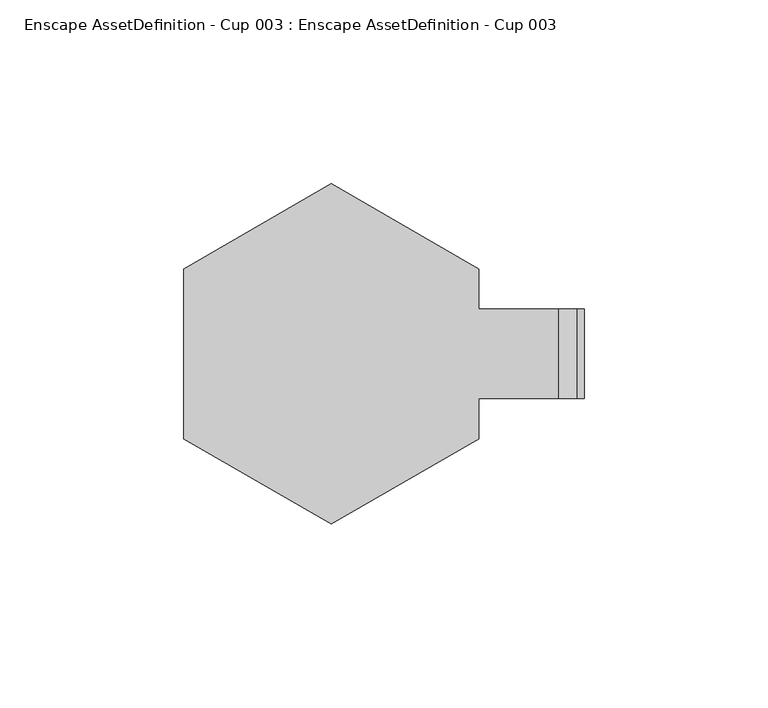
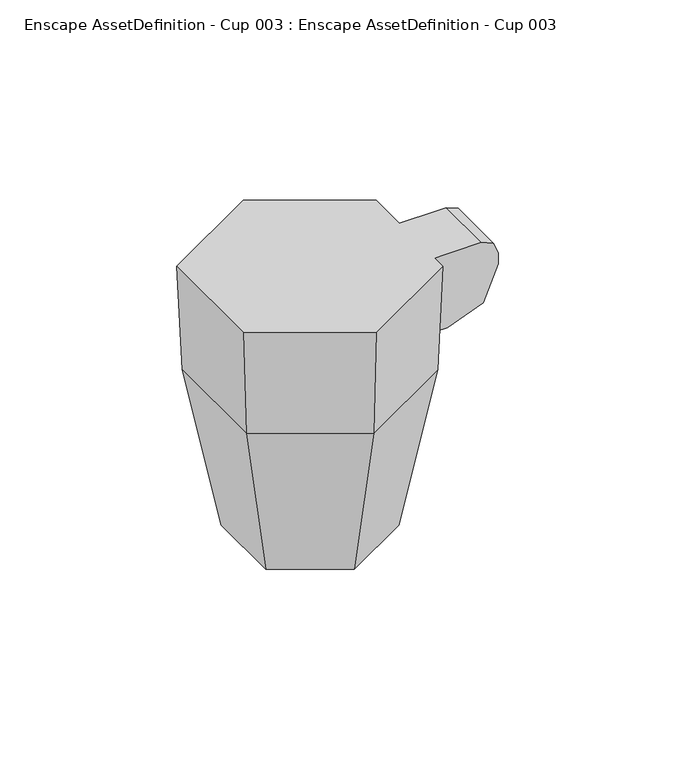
"""IFC4 building model written with IfcOpenShell, lengths in millimetres: geographic element geometry, Enscape AssetDefinition - Cup 003 : Enscape AssetDefinition - Cup 003."""

from ifc_helpers import new_model, si_unit, origin, place, context, project, spatial, triangles, source, transform, mapped, element, save


def enscape_assetdefinition_cup_003_enscape_assetdefinition_cup_932f1833(model_context):
    return source(origin(), model_context, "Body", "Tessellation", [
        triangles([(26.7339991, 15.4349999, 0.0), (38.4809996, -22.217001, 66.1040002), (26.7339991, -15.4349999, 0.0), (0.0, 30.8699998, 0.0), (0.0, -44.434002, 66.1040002), (40.1029982, -23.1529995, 110.0739952), (0.0, -30.8699998, 0.0), (-40.1029982, -23.1529995, 110.0739952), (0.0, -46.3070027, 110.0739952), (-40.1029982, 23.1529995, 110.0739952), (-38.4809996, -22.217001, 66.1040002), (38.4809996, 22.217001, 66.1040002), (0.0, 46.3070027, 110.0739952), (-26.7339991, -15.4349999, 0.0), (-38.4809996, 22.217001, 66.1040002), (0.0, 44.434002, 66.1040002), (40.1029982, 23.1529995, 110.0739952), (-26.7339991, 15.4349999, 0.0), (39.2920012, -12.1629999, 105.9359938), (39.2920012, 12.1629999, 105.9359938), (61.8809976, -12.1629999, 105.9359938), (39.2920012, 12.1629999, 74.5049999), (48.1470021, 12.1629999, 74.5049999), (39.2920012, -12.1629999, 74.5049999), (48.1470021, -12.1629999, 74.5049999), (62.6949968, 12.1629999, 79.9210029), (62.6949968, -12.1629999, 79.9210029), (68.7209961, 12.1629999, 94.4690066), (68.7209961, -12.1629999, 99.0950051), (68.7209961, -12.1629999, 94.4690066), (68.7209961, 12.1629999, 99.0950051), (66.7179979, 12.1629999, 103.9320009), (61.8809976, 12.1629999, 105.9359938), (66.7179979, -12.1629999, 103.9320009)], [[33, 21, 34], [33, 34, 32], [23, 33, 32], [23, 32, 31], [32, 29, 31], [32, 34, 29], [29, 34, 21], [21, 30, 29], [23, 31, 28], [29, 28, 31], [29, 30, 28], [28, 26, 23], [27, 28, 30], [27, 26, 28], [21, 27, 30], [25, 26, 27], [25, 23, 26], [21, 25, 27], [21, 24, 25], [24, 23, 25], [24, 22, 23], [20, 21, 33], [23, 20, 33], [23, 22, 20], [20, 19, 21], [21, 19, 24], [19, 22, 24], [19, 20, 22], [4, 16, 12], [18, 16, 4], [16, 17, 12], [16, 13, 17], [15, 13, 16], [18, 15, 16], [14, 15, 18], [7, 14, 18], [14, 11, 15], [7, 11, 14], [15, 10, 13], [11, 10, 15], [6, 13, 10], [6, 17, 13], [12, 17, 6], [11, 8, 10], [6, 10, 8], [8, 9, 6], [5, 8, 11], [5, 9, 8], [7, 5, 11], [18, 3, 7], [3, 5, 7], [2, 9, 5], [2, 6, 9], [12, 6, 2], [3, 2, 5], [18, 1, 3], [18, 4, 1], [4, 12, 1], [1, 2, 3], [1, 12, 2]]),
    ])


if __name__ == "__main__":
    model = new_model("IFC4")
    model_context = context("Model", 3, world=origin())
    ifc_project = project(units=[si_unit("LENGTHUNIT", "METRE", prefix="MILLI")], contexts=[model_context])
    site = spatial("IfcSite", under=ifc_project)
    building = spatial("IfcBuilding", under=site)
    placement = place(None, origin())
    enscape_assetdefinition_cup_003_enscape_assetdefinition_cup_shape = enscape_assetdefinition_cup_003_enscape_assetdefinition_cup_932f1833(model_context)
    element("IfcGeographicElement", 1, ObjectType="Enscape AssetDefinition - Cup 003 : Enscape AssetDefinition - Cup 003", at=placement, inside=building, context=model_context, shape_type="MappedRepresentation", body=[
        mapped(enscape_assetdefinition_cup_003_enscape_assetdefinition_cup_shape, transform((0.0, 0.0, 0.0), x_axis=(1.0, 0.0, 0.0), y_axis=(0.0, 1.0, 0.0), z_axis=(0.0, 0.0, 1.0))),
    ])
    save(model, "model.ifc")
